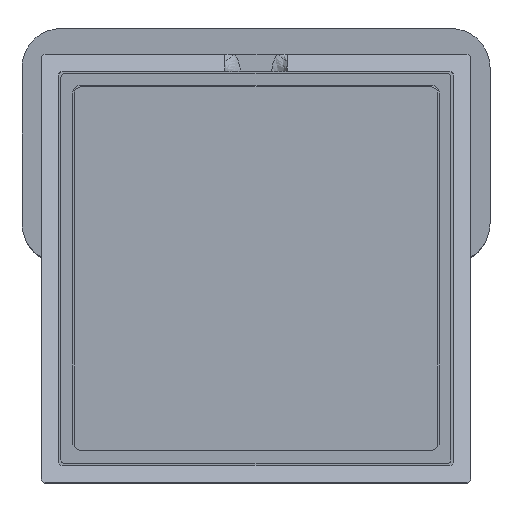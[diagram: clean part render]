
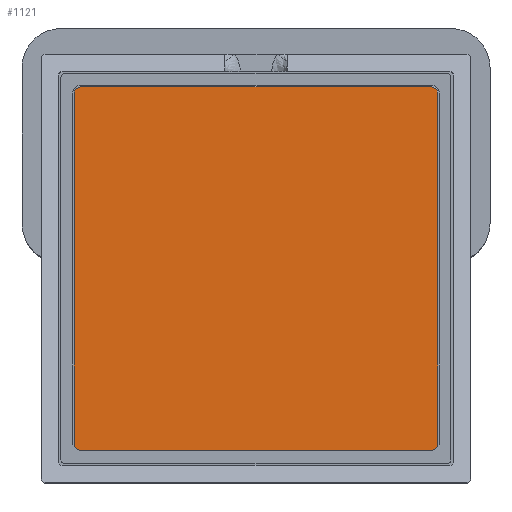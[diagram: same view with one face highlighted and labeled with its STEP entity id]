
A CAD part, top view. The second image highlights one B-rep face of the part: STEP entity #1121.
In plain terms, the highlighted planar face has unit normal (0, 0, 1).
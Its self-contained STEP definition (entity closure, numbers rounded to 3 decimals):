
#988=CARTESIAN_POINT('',(22.5,-22.5,33.191));
#989=DIRECTION('',(0.,0.,-1.));
#990=DIRECTION('',(1.,0.,0.));
#991=AXIS2_PLACEMENT_3D('',#988,#989,#990);
#993=DIRECTION('',(-1.,0.,0.));
#994=VECTOR('',#993,45.);
#995=CARTESIAN_POINT('',(22.5,-23.3,33.191));
#996=LINE('',#995,#994);
#997=CARTESIAN_POINT('',(-22.5,-22.5,33.191));
#998=DIRECTION('',(0.,0.,-1.));
#999=DIRECTION('',(0.,-1.,0.));
#1000=AXIS2_PLACEMENT_3D('',#997,#998,#999);
#1002=DIRECTION('',(0.,-1.,0.));
#1003=VECTOR('',#1002,45.);
#1004=CARTESIAN_POINT('',(-23.3,22.5,33.191));
#1005=LINE('',#1004,#1003);
#1006=CARTESIAN_POINT('',(-22.5,22.5,33.191));
#1007=DIRECTION('',(0.,0.,1.));
#1008=DIRECTION('',(0.,1.,0.));
#1009=AXIS2_PLACEMENT_3D('',#1006,#1007,#1008);
#1011=DIRECTION('',(-1.,0.,0.));
#1012=VECTOR('',#1011,45.);
#1013=CARTESIAN_POINT('',(22.5,23.3,33.191));
#1014=LINE('',#1013,#1012);
#1015=CARTESIAN_POINT('',(22.5,22.5,33.191));
#1016=DIRECTION('',(0.,0.,1.));
#1017=DIRECTION('',(1.,0.,0.));
#1018=AXIS2_PLACEMENT_3D('',#1015,#1016,#1017);
#1020=DIRECTION('',(0.,1.,0.));
#1021=VECTOR('',#1020,45.);
#1022=CARTESIAN_POINT('',(23.3,-22.5,33.191));
#1023=LINE('',#1022,#1021);
#1070=CARTESIAN_POINT('',(22.5,-23.3,33.191));
#1071=CARTESIAN_POINT('',(23.3,-22.5,33.191));
#1072=VERTEX_POINT('',#1070);
#1073=VERTEX_POINT('',#1071);
#1074=CARTESIAN_POINT('',(23.3,22.5,33.191));
#1075=VERTEX_POINT('',#1074);
#1080=CARTESIAN_POINT('',(22.5,23.3,33.191));
#1081=VERTEX_POINT('',#1080);
#1084=CARTESIAN_POINT('',(-22.5,23.3,33.191));
#1085=VERTEX_POINT('',#1084);
#1088=CARTESIAN_POINT('',(-23.3,22.5,33.191));
#1089=VERTEX_POINT('',#1088);
#1092=CARTESIAN_POINT('',(-23.3,-22.5,33.191));
#1093=VERTEX_POINT('',#1092);
#1096=CARTESIAN_POINT('',(-22.5,-23.3,33.191));
#1097=VERTEX_POINT('',#1096);
#1098=CARTESIAN_POINT('',(0.,0.,33.191));
#1099=DIRECTION('',(0.,0.,1.));
#1100=DIRECTION('',(1.,0.,0.));
#1101=AXIS2_PLACEMENT_3D('',#1098,#1099,#1100);
#1102=PLANE('',#1101);
#1104=ORIENTED_EDGE('',*,*,#1103,.T.);
#1106=ORIENTED_EDGE('',*,*,#1105,.T.);
#1108=ORIENTED_EDGE('',*,*,#1107,.T.);
#1110=ORIENTED_EDGE('',*,*,#1109,.F.);
#1112=ORIENTED_EDGE('',*,*,#1111,.F.);
#1114=ORIENTED_EDGE('',*,*,#1113,.F.);
#1116=ORIENTED_EDGE('',*,*,#1115,.F.);
#1118=ORIENTED_EDGE('',*,*,#1117,.F.);
#1119=EDGE_LOOP('',(#1104,#1106,#1108,#1110,#1112,#1114,#1116,#1118));
#1120=FACE_OUTER_BOUND('',#1119,.F.);
#1121=ADVANCED_FACE('',(#1120),#1102,.T.);
#992=CIRCLE('',#991,0.8);
#1001=CIRCLE('',#1000,0.8);
#1010=CIRCLE('',#1009,0.8);
#1019=CIRCLE('',#1018,0.8);
#1103=EDGE_CURVE('',#1073,#1072,#992,.T.);
#1105=EDGE_CURVE('',#1072,#1097,#996,.T.);
#1107=EDGE_CURVE('',#1097,#1093,#1001,.T.);
#1109=EDGE_CURVE('',#1089,#1093,#1005,.T.);
#1111=EDGE_CURVE('',#1085,#1089,#1010,.T.);
#1113=EDGE_CURVE('',#1081,#1085,#1014,.T.);
#1115=EDGE_CURVE('',#1075,#1081,#1019,.T.);
#1117=EDGE_CURVE('',#1073,#1075,#1023,.T.);
